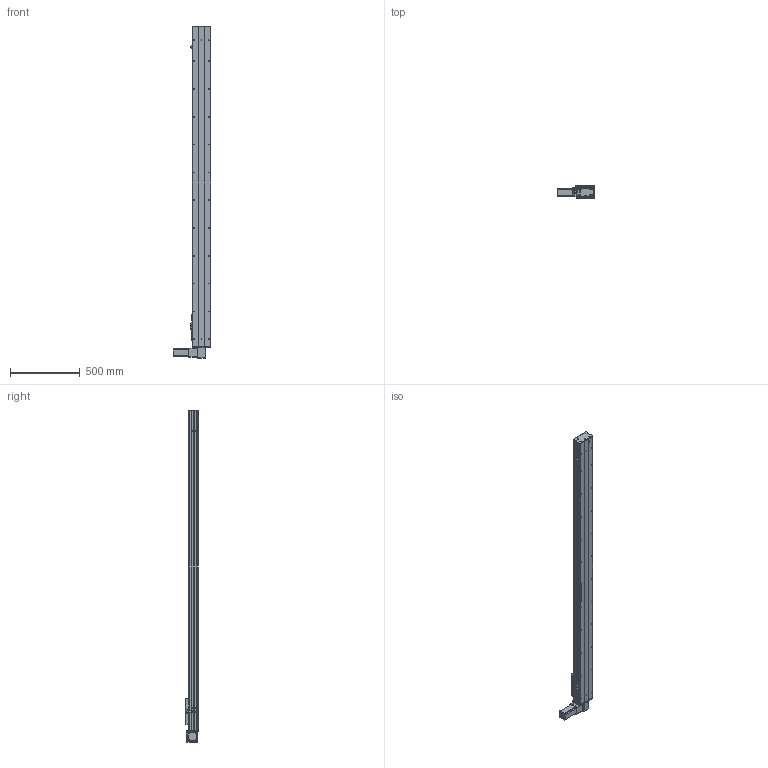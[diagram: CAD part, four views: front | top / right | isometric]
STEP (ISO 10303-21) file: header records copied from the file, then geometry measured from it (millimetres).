
FILE_DESCRIPTION (( 'STEP AP203' ), '1' );
FILE_NAME ('Y135CB-D90-S2000-BD-P400W.STEP', '2020-02-19T03:55:00', ( '微软用户' ), ( '微软中国' ), 'SwSTEP 2.0', 'SolidWorks 2017', '' );
FILE_SCHEMA (( 'CONFIG_CONTROL_DESIGN' ));
Length unit declared in the file: millimetre
Products named in the file (16): 0B-薊粣ん眊; 5CB --掛极耜裔啣-; Y135CB-D90-S2000-BD-P400W; C-詩湍揤踡え-陔; 135CB--詩湍-CE; Y135CB-耜裔; Y100-135俋离換覜ん--; 135CB---遴掛极.-; Y135C-陔俋离換覜結え-; 35CB---喘謫眊楊擘啣; 5C--俋欶; 0B-埴倛裔啣; C-雄赽釱--; 0B-源倛裔啣; Y10B--々湍喘謫眊--666; san松下电机400不带刹车----
Assembly tree (19 placements, depth 2):
  Y135CB-D90-S2000-BD-P400W
    Y135CB-耜裔
    135CB---遴掛极.-
    35CB---喘謫眊楊擘啣
    0B-埴倛裔啣
    0B-源倛裔啣
    san松下电机400不带刹车----
    5CB --掛极耜裔啣-  x2
    C-詩湍揤踡え-陔  x2
    135CB--詩湍-CE
    Y100-135俋离換覜ん--  x3
    Y135C-陔俋离換覜結え-
    5C--俋欶
    C-雄赽釱--
    Y10B--々湍喘謫眊--666
    0B-薊粣ん眊
Bounding box: 272 x 91 x 2388 mm (x, y, z)
Volume: 6983703.6 mm3; surface area: 2715019.7 mm2
Topology: 19 solids, 19 shells, 875 faces, 2356 edges, 1560 vertices
Faces by surface type: cylinder 444, plane 415, cone 16
Entity records: 27016 total; most frequent: DIRECTION 4504, CARTESIAN_POINT 4467, ORIENTED_EDGE 4188, EDGE_CURVE 2094, AXIS2_PLACEMENT_3D 1657, VERTEX_POINT 1388, VECTOR 1190, LINE 1190
